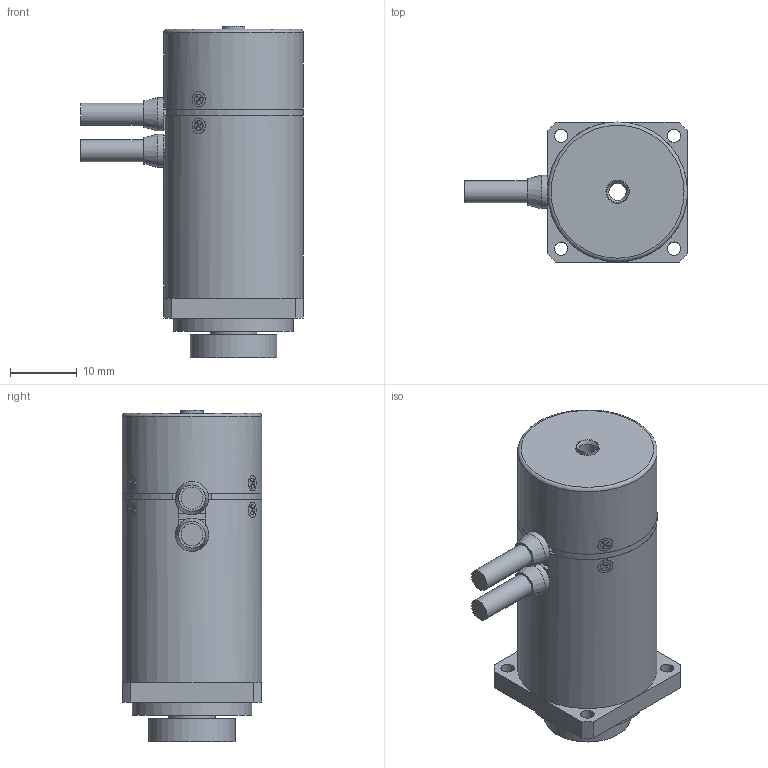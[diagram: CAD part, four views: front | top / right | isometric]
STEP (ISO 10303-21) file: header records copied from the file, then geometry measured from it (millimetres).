
FILE_DESCRIPTION(('STEP AP214'),'1');
FILE_NAME('MDH-2018.stp','2017-10-10T07:01:35',(' '),(' '),'Spatial InterOp 3D',' ',' ');
FILE_SCHEMA(('automotive_design'));
Length unit declared in the file: millimetre
Products named in the file (11): ケーブル; タッピングネジ M1.4x2.2; サラコネジ M1.4x2.5; ｱﾝｷﾞｭﾗﾍﾞｱﾘﾝｸﾞ MTA04-11; ｱﾝｷﾞｭﾗﾍﾞｱﾘﾝｸﾞ MTA05-13; ブッシュ; カバー_H; ベース; シャフト_H2018; ケース_2018
Assembly tree (16 placements, depth 2):
  (unnamed)
    ケーブル  x2
    タッピングネジ M1.4x2.2  x3
    サラコネジ M1.4x2.5  x3
    ｱﾝｷﾞｭﾗﾍﾞｱﾘﾝｸﾞ MTA04-11
    ｱﾝｷﾞｭﾗﾍﾞｱﾘﾝｸﾞ MTA05-13
    ブッシュ  x2
    カバー_H
    ベース
    シャフト_H2018
    ケース_2018
Bounding box: 33.5 x 21 x 49.9 mm (x, y, z)
Volume: 6003.3 mm3; surface area: 12495 mm2
Topology: 17 solids, 18 shells, 359 faces, 840 edges, 546 vertices
Faces by surface type: plane 201, cylinder 119, cone 29, torus 10
Full cylindrical faces by diameter (mm): 0.75 x6, 1.1 x6, 1.25 x6, 1.4 x12, 1.5 x6, 2 x4, 2.3 x6, 2.6 x1, 3.3 x4, 3.4 x1, 3.5 x1, 4 x3, 4.2 x1, 5 x4, 6 x1, 6.2 x4, 7 x1, 7.2 x3, 7.3 x1, 7.6 x1, 8.1 x1, 8.6 x1, 9.5 x5, 9.9 x1, 11 x2, 11.2 x1, 11.3 x3, 11.5 x1, 13 x3, 16 x1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
Entity records: 9544 total; most frequent: CARTESIAN_POINT 1735, DIRECTION 1180, ORIENTED_EDGE 908, AXIS2_PLACEMENT_3D 486, EDGE_CURVE 454, EDGE_LOOP 452, VERTEX_POINT 359, FACE_OUTER_BOUND 353
